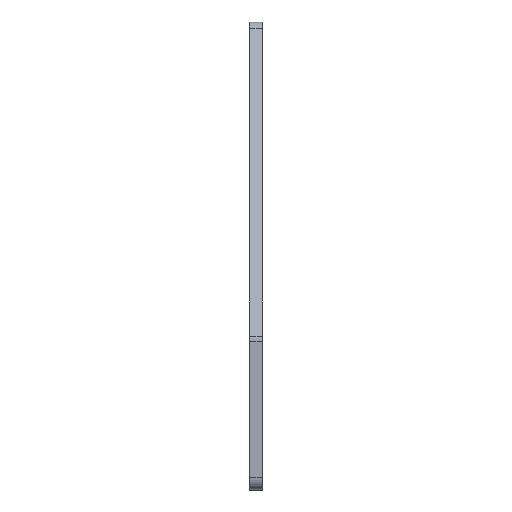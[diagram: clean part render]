
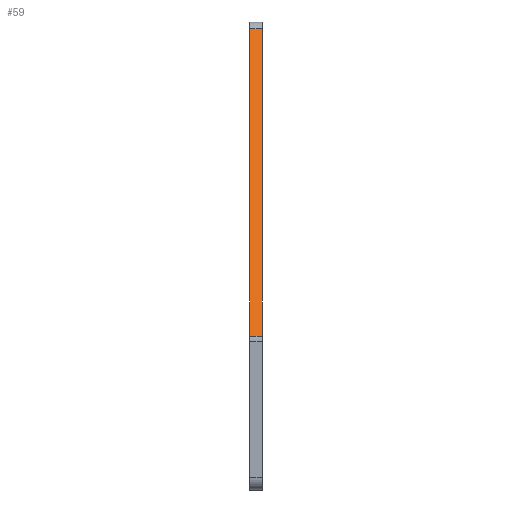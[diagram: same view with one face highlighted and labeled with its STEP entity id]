
A CAD part, left-side view. The second image highlights one B-rep face of the part: STEP entity #59.
In plain terms, the highlighted planar face has unit normal (-0.894, 0, 0.447).
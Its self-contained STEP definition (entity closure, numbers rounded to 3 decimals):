
#21 = DIRECTION ( 'NONE',  ( -0.894, 0., 0.447 ) ) ;
#59 = ADVANCED_FACE ( 'NONE', ( #917 ), #960, .T. ) ;
#100 = ORIENTED_EDGE ( 'NONE', *, *, #940, .F. ) ;
#106 = LINE ( 'NONE', #905, #819 ) ;
#107 = CARTESIAN_POINT ( 'NONE',  ( -39.593, 0., 96.342 ) ) ;
#108 = ORIENTED_EDGE ( 'NONE', *, *, #251, .F. ) ;
#251 = EDGE_CURVE ( 'NONE', #702, #482, #974, .T. ) ;
#272 = DIRECTION ( 'NONE',  ( -0.447, 0., -0.894 ) ) ;
#306 = LINE ( 'NONE', #877, #1088 ) ;
#358 = AXIS2_PLACEMENT_3D ( 'NONE', #792, #21, #272 ) ;
#434 = VECTOR ( 'NONE', #524, 1000. ) ;
#462 = CARTESIAN_POINT ( 'NONE',  ( -77.683, 3., 20.161 ) ) ;
#473 = DIRECTION ( 'NONE',  ( 0., 1., 0. ) ) ;
#482 = VERTEX_POINT ( 'NONE', #513 ) ;
#498 = VERTEX_POINT ( 'NONE', #936 ) ;
#513 = CARTESIAN_POINT ( 'NONE',  ( -77.683, 0., 20.161 ) ) ;
#520 = EDGE_CURVE ( 'NONE', #498, #1022, #580, .T. ) ;
#524 = DIRECTION ( 'NONE',  ( -0.447, 0., -0.894 ) ) ;
#530 = EDGE_CURVE ( 'NONE', #498, #702, #306, .T. ) ;
#580 = LINE ( 'NONE', #1032, #434 ) ;
#582 = ORIENTED_EDGE ( 'NONE', *, *, #530, .F. ) ;
#702 = VERTEX_POINT ( 'NONE', #107 ) ;
#721 = CARTESIAN_POINT ( 'NONE',  ( -38.764, 0., 98. ) ) ;
#792 = CARTESIAN_POINT ( 'NONE',  ( -38.764, 0., 98. ) ) ;
#819 = VECTOR ( 'NONE', #473, 1000. ) ;
#861 = DIRECTION ( 'NONE',  ( 0., -1., 0. ) ) ;
#877 = CARTESIAN_POINT ( 'NONE',  ( -39.593, 0., 96.342 ) ) ;
#905 = CARTESIAN_POINT ( 'NONE',  ( -77.683, 0., 20.161 ) ) ;
#911 = DIRECTION ( 'NONE',  ( -0.447, 0., -0.894 ) ) ;
#917 = FACE_OUTER_BOUND ( 'NONE', #1019, .T. ) ;
#936 = CARTESIAN_POINT ( 'NONE',  ( -39.593, 3., 96.342 ) ) ;
#940 = EDGE_CURVE ( 'NONE', #482, #1022, #106, .T. ) ;
#960 = PLANE ( 'NONE',  #358 ) ;
#974 = LINE ( 'NONE', #721, #1048 ) ;
#1019 = EDGE_LOOP ( 'NONE', ( #1069, #100, #108, #582 ) ) ;
#1022 = VERTEX_POINT ( 'NONE', #462 ) ;
#1032 = CARTESIAN_POINT ( 'NONE',  ( -38.764, 3., 98. ) ) ;
#1048 = VECTOR ( 'NONE', #911, 1000. ) ;
#1069 = ORIENTED_EDGE ( 'NONE', *, *, #520, .T. ) ;
#1088 = VECTOR ( 'NONE', #861, 1000. ) ;
